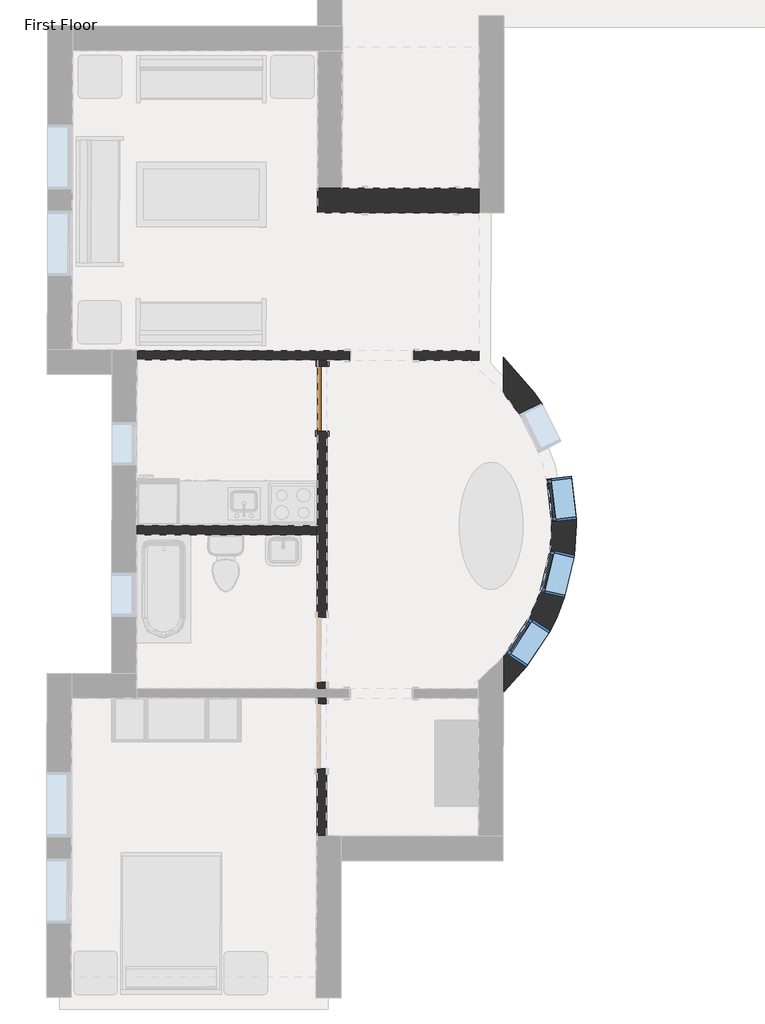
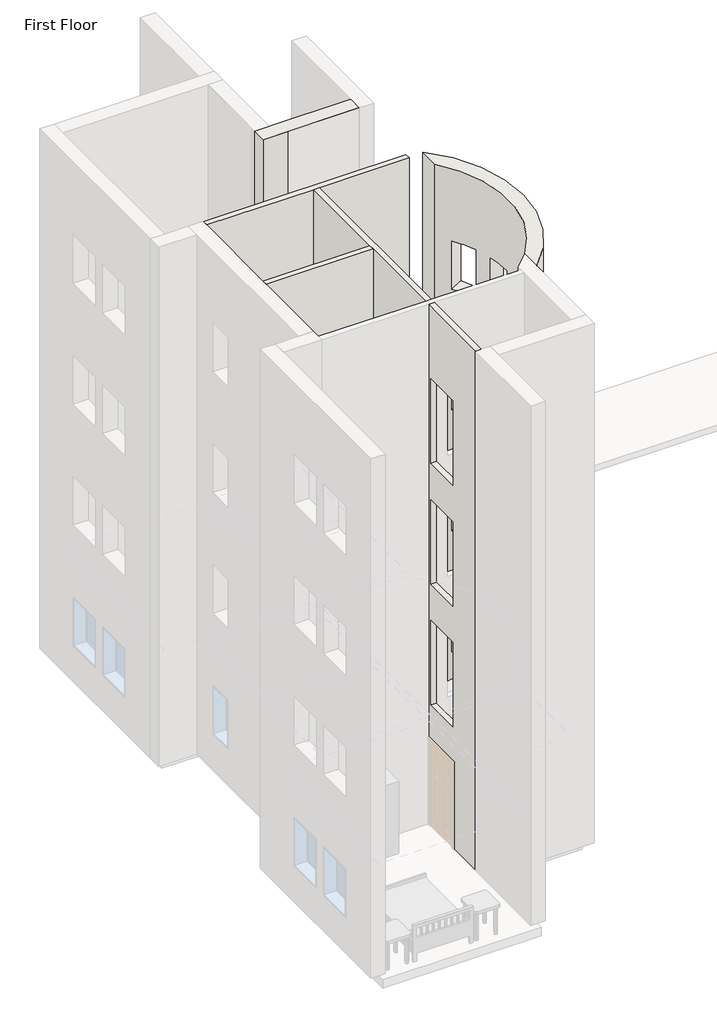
# One storey, part 10 of 23: 5 walls, 3 windows, 1 door.
"""IFC4 building model written with IfcOpenShell, lengths in millimetres."""

from ifc_helpers import new_model, si_unit, frame, origin, origin_with_axes, place, context, project, spatial, polyline, circle_curve, outline, extrude, faceted_brep, transform, mapped, element, save
from ifc_brep_helpers import plane_surface, cylinder_surface, revolved_surface, advanced_brep
from components import m_single_flush_0915_x_2134mm_08e0827a, m_fixed_0610_x_1220mm_2c28ef1d, m_fixed_0610_x_1220mm_1ea27827

model = new_model("IFC4")

# Units and contexts
model_context = context("Model", 3, world=origin())
ifc_project = project(units=[si_unit("LENGTHUNIT", "METRE", prefix="MILLI")], contexts=[model_context])

# Site, building, storey
site = spatial("IfcSite", under=ifc_project)
building = spatial("IfcBuilding", under=site)
storey = spatial("IfcBuildingStorey", under=building, Name="First Floor", Elevation=0.0)

# Door
placement = place(None, origin())
m_single_flush_0915_x_2134mm_shape = m_single_flush_0915_x_2134mm_08e0827a(model_context)
element("IfcDoor", 1, ObjectType="M_Single-Flush : 0915 x 2134mm", at=placement, inside=storey, context=model_context, shape_type="MappedRepresentation", body=[
    mapped(m_single_flush_0915_x_2134mm_shape, transform((-30110.3916422, -11034.8800064, 0.0), x_axis=(0.0014474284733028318, 0.9999989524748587, 0.0), y_axis=(-0.9999989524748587, 0.0014474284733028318, 0.0), z_axis=(0.0, 0.0, 1.0))),
])

# Walls
element("IfcWall", 2, ObjectType="Exterior - Brick on Mtl. Stud", at=placement, inside=storey, context=model_context, shape_type="Brep", body=[
    faceted_brep([(-27895.0916203, -8064.2811614, 0.0), (-29831.0916203, -8064.2811614, 0.0), (-30181.0916203, -8064.2811614, 0.0), (-30181.0916203, -8064.2811614, 13107.0), (-29831.0916203, -8064.2811614, 13107.0), (-27895.0916203, -8064.2811614, 13107.0), (-27895.0916203, -8414.2811614, 0.0), (-27895.0916203, -8414.2811614, 13107.0), (-27895.5961928, -8414.2811614, 13107.0), (-30181.0916203, -8414.2811614, 13107.0), (-30181.0916203, -8414.2811614, 0.0), (-27895.5961928, -8414.2811614, 0.0)], [[[0, 1, 2, 3, 4, 5]], [[6, 7, 8, 9, 10, 11]], [[2, 1, 0, 6, 11, 10]], [[5, 4, 3, 9, 8, 7]], [[0, 5, 7, 6]], [[3, 2, 10, 9]]]),
])
element("IfcWall", 3, ObjectType="Exterior - Brick on Mtl. Stud", at=placement, inside=storey, context=model_context, shape_type="AdvancedBrep", body=[
    advanced_brep(
    [(-27549.2751645, -10956.2613328, 13107.0), (-27554.6547514, -14672.9086878, 13107.0), (-27555.3862129, -15178.2606268, 13107.0), (-27548.543703, -10450.9093937, 13107.0), (-27554.6547514, -14672.9086878, 0.0), (-27549.2751645, -10956.2613328, 0.0), (-27548.543703, -10450.9093937, 0.0), (-27555.3862129, -15178.2606268, 0.0), (-27520.0158029, -14631.4021728, 2135.0), (-27520.0158029, -14631.4021728, 915.0), (-27185.8837278, -14121.0535112, 915.0), (-27185.8837278, -14121.0535112, 2135.0), (-27031.6069202, -13761.3294525, 2135.0), (-27031.6069202, -13761.3294525, 915.0), (-26892.1749972, -13167.4786809, 915.0), (-26892.1749972, -13167.4786809, 2135.0), (-26942.3208705, -12170.9571474, 915.0), (-26942.3208705, -12170.9571474, 2135.0), (-26870.2350936, -12776.6828616, 2135.0), (-26870.2350936, -12776.6828616, 915.0), (-27330.2730153, -11251.6841147, 915.0), (-27330.2730153, -11251.6841147, 2135.0), (-27055.3641472, -11796.2253108, 2135.0), (-27055.3641472, -11796.2253108, 915.0), (-26942.3208705, -12170.9571474, 10059.0), (-26942.3208705, -12170.9571474, 11279.0), (-26870.2350936, -12776.6828616, 11279.0), (-26870.2350936, -12776.6828616, 10059.0), (-27330.2730153, -11251.6841147, 10059.0), (-27330.2730153, -11251.6841147, 11279.0), (-27055.3641472, -11796.2253108, 11279.0), (-27055.3641472, -11796.2253108, 10059.0), (-27031.6069202, -13761.3294525, 10059.0), (-26892.1749972, -13167.4786809, 10059.0), (-26892.1749972, -13167.4786809, 11279.0), (-27031.6069202, -13761.3294525, 11279.0), (-27520.0158029, -14631.4021728, 10059.0), (-27185.8837278, -14121.0535112, 10059.0), (-27185.8837278, -14121.0535112, 11279.0), (-27520.0158029, -14631.4021728, 11279.0), (-26942.3208705, -12170.9571474, 3963.0), (-26942.3208705, -12170.9571474, 5183.0), (-26870.2350936, -12776.6828616, 5183.0), (-26870.2350936, -12776.6828616, 3963.0), (-27330.2730153, -11251.6841147, 3963.0), (-27330.2730153, -11251.6841147, 5183.0), (-27055.3641472, -11796.2253108, 5183.0), (-27055.3641472, -11796.2253108, 3963.0), (-27031.6069202, -13761.3294525, 3963.0), (-26892.1749972, -13167.4786809, 3963.0), (-26892.1749972, -13167.4786809, 5183.0), (-27031.6069202, -13761.3294525, 5183.0), (-27520.0158029, -14631.4021728, 3963.0), (-27185.8837278, -14121.0535112, 3963.0), (-27185.8837278, -14121.0535112, 5183.0), (-27520.0158029, -14631.4021728, 5183.0), (-26942.3208705, -12170.9571474, 7011.0), (-26942.3208705, -12170.9571474, 8231.0), (-26870.2350936, -12776.6828616, 8231.0), (-26870.2350936, -12776.6828616, 7011.0), (-27330.2730153, -11251.6841147, 7011.0), (-27330.2730153, -11251.6841147, 8231.0), (-27055.3641472, -11796.2253108, 8231.0), (-27055.3641472, -11796.2253108, 7011.0), (-27031.6069202, -13761.3294525, 7011.0), (-26892.1749972, -13167.4786809, 7011.0), (-26892.1749972, -13167.4786809, 8231.0), (-27031.6069202, -13761.3294525, 8231.0), (-27520.0158029, -14631.4021728, 7011.0), (-27185.8837278, -14121.0535112, 7011.0), (-27185.8837278, -14121.0535112, 8231.0), (-27520.0158029, -14631.4021728, 8231.0), (-27225.7106882, -14824.0876564, 915.0), (-27225.7106882, -14824.0876564, 2135.0), (-26891.5786131, -14313.7389949, 2135.0), (-26891.5786131, -14313.7389949, 915.0), (-26689.1482589, -13841.7363021, 915.0), (-26689.1482589, -13841.7363021, 2135.0), (-26549.7163359, -13247.8855306, 2135.0), (-26549.7163359, -13247.8855306, 915.0), (-26593.0142313, -12129.3871103, 915.0), (-26520.9284545, -12735.1128244, 915.0), (-26520.9284545, -12735.1128244, 2135.0), (-26593.0142313, -12129.3871103, 2135.0), (-27016.2499342, -11093.1511508, 915.0), (-26741.3410661, -11637.6923468, 915.0), (-26741.3410661, -11637.6923468, 2135.0), (-27016.2499342, -11093.1511508, 2135.0), (-26593.0142313, -12129.3871103, 10059.0), (-26520.9284545, -12735.1128244, 10059.0), (-26520.9284545, -12735.1128244, 11279.0), (-26593.0142313, -12129.3871103, 11279.0), (-27016.2499342, -11093.1511508, 10059.0), (-26741.3410661, -11637.6923468, 10059.0), (-26741.3410661, -11637.6923468, 11279.0), (-27016.2499342, -11093.1511508, 11279.0), (-26689.1482589, -13841.7363021, 10059.0), (-26689.1482589, -13841.7363021, 11279.0), (-26549.7163359, -13247.8855306, 11279.0), (-26549.7163359, -13247.8855306, 10059.0), (-27225.7106882, -14824.0876564, 10059.0), (-27225.7106882, -14824.0876564, 11279.0), (-26891.5786131, -14313.7389949, 11279.0), (-26891.5786131, -14313.7389949, 10059.0), (-26593.0142313, -12129.3871103, 3963.0), (-26520.9284545, -12735.1128244, 3963.0), (-26520.9284545, -12735.1128244, 5183.0), (-26593.0142313, -12129.3871103, 5183.0), (-27016.2499342, -11093.1511508, 3963.0), (-26741.3410661, -11637.6923468, 3963.0), (-26741.3410661, -11637.6923468, 5183.0), (-27016.2499342, -11093.1511508, 5183.0), (-26689.1482589, -13841.7363021, 3963.0), (-26689.1482589, -13841.7363021, 5183.0), (-26549.7163359, -13247.8855306, 5183.0), (-26549.7163359, -13247.8855306, 3963.0), (-27225.7106882, -14824.0876564, 3963.0), (-27225.7106882, -14824.0876564, 5183.0), (-26891.5786131, -14313.7389949, 5183.0), (-26891.5786131, -14313.7389949, 3963.0), (-26593.0142313, -12129.3871103, 7011.0), (-26520.9284545, -12735.1128244, 7011.0), (-26520.9284545, -12735.1128244, 8231.0), (-26593.0142313, -12129.3871103, 8231.0), (-27016.2499342, -11093.1511508, 7011.0), (-26741.3410661, -11637.6923468, 7011.0), (-26741.3410661, -11637.6923468, 8231.0), (-27016.2499342, -11093.1511508, 8231.0), (-26689.1482589, -13841.7363021, 7011.0), (-26689.1482589, -13841.7363021, 8231.0), (-26549.7163359, -13247.8855306, 8231.0), (-26549.7163359, -13247.8855306, 7011.0), (-27225.7106882, -14824.0876564, 7011.0), (-27225.7106882, -14824.0876564, 8231.0), (-26891.5786131, -14313.7389949, 8231.0), (-26891.5786131, -14313.7389949, 7011.0)],
    [
        (0, 1, circle_curve(frame((-29743.0251618, -12811.413604, 13107.0), z_axis=(0.0, 0.0, -1.0), x_axis=(0.0014474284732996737, 0.9999989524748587, 0.0)), 2873.0)),
        (1, 2),
        (2, 3, circle_curve(frame((-29743.0251618, -12811.413604, 13107.0), z_axis=(0.0, 0.0, 1.0), x_axis=(0.0014474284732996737, 0.9999989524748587, 0.0)), 3223.0)),
        (3, 0),
        (4, 5, circle_curve(frame((-29743.0251618, -12811.413604, 0.0), z_axis=(0.0, 0.0, 1.0), x_axis=(0.0014474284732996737, 0.9999989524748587, 0.0)), 2873.0)),
        (5, 6),
        (6, 7, circle_curve(frame((-29743.0251618, -12811.413604, 0.0), z_axis=(0.0, 0.0, -1.0), x_axis=(0.0014474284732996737, 0.9999989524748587, 0.0)), 3223.0)),
        (7, 4),
        (0, 5),
        (4, 1),
        (8, 9),
        (9, 10, circle_curve(frame((-29743.0251618, -12811.413604, 915.0), z_axis=(0.0, 0.0, 1.0), x_axis=(0.0014474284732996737, 0.9999989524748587, 0.0)), 2873.0)),
        (10, 11),
        (11, 8, circle_curve(frame((-29743.0251618, -12811.413604, 2135.0), z_axis=(0.0, 0.0, -1.0), x_axis=(0.0014474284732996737, 0.9999989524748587, 0.0)), 2873.0)),
        (12, 13),
        (13, 14, circle_curve(frame((-29743.0251618, -12811.413604, 915.0), z_axis=(0.0, 0.0, 1.0), x_axis=(0.0014474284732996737, 0.9999989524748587, 0.0)), 2873.0)),
        (14, 15),
        (15, 12, circle_curve(frame((-29743.0251618, -12811.413604, 2135.0), z_axis=(0.0, 0.0, -1.0), x_axis=(0.0014474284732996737, 0.9999989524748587, 0.0)), 2873.0)),
        (16, 17),
        (17, 18, circle_curve(frame((-29743.0251618, -12811.413604, 2135.0), z_axis=(0.0, 0.0, -1.0), x_axis=(0.0014474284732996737, 0.9999989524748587, 0.0)), 2873.0)),
        (18, 19),
        (19, 16, circle_curve(frame((-29743.0251618, -12811.413604, 915.0), z_axis=(0.0, 0.0, 1.0), x_axis=(0.0014474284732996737, 0.9999989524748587, 0.0)), 2873.0)),
        (20, 21),
        (21, 22, circle_curve(frame((-29743.0251618, -12811.413604, 2135.0), z_axis=(0.0, 0.0, -1.0), x_axis=(0.0014474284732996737, 0.9999989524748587, 0.0)), 2873.0)),
        (22, 23),
        (23, 20, circle_curve(frame((-29743.0251618, -12811.413604, 915.0), z_axis=(0.0, 0.0, 1.0), x_axis=(0.0014474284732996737, 0.9999989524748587, 0.0)), 2873.0)),
        (24, 25),
        (25, 26, circle_curve(frame((-29743.0251618, -12811.413604, 11279.0), z_axis=(0.0, 0.0, -1.0), x_axis=(0.0014474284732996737, 0.9999989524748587, 0.0)), 2873.0)),
        (26, 27),
        (27, 24, circle_curve(frame((-29743.0251618, -12811.413604, 10059.0), z_axis=(0.0, 0.0, 1.0), x_axis=(0.0014474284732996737, 0.9999989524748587, 0.0)), 2873.0)),
        (28, 29),
        (29, 30, circle_curve(frame((-29743.0251618, -12811.413604, 11279.0), z_axis=(0.0, 0.0, -1.0), x_axis=(0.0014474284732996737, 0.9999989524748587, 0.0)), 2873.0)),
        (30, 31),
        (31, 28, circle_curve(frame((-29743.0251618, -12811.413604, 10059.0), z_axis=(0.0, 0.0, 1.0), x_axis=(0.0014474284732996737, 0.9999989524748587, 0.0)), 2873.0)),
        (32, 33, circle_curve(frame((-29743.0251618, -12811.413604, 10059.0), z_axis=(0.0, 0.0, 1.0), x_axis=(0.0014474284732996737, 0.9999989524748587, 0.0)), 2873.0)),
        (33, 34),
        (34, 35, circle_curve(frame((-29743.0251618, -12811.413604, 11279.0), z_axis=(0.0, 0.0, -1.0), x_axis=(0.0014474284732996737, 0.9999989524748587, 0.0)), 2873.0)),
        (35, 32),
        (36, 37, circle_curve(frame((-29743.0251618, -12811.413604, 10059.0), z_axis=(0.0, 0.0, 1.0), x_axis=(0.0014474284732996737, 0.9999989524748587, 0.0)), 2873.0)),
        (37, 38),
        (38, 39, circle_curve(frame((-29743.0251618, -12811.413604, 11279.0), z_axis=(0.0, 0.0, -1.0), x_axis=(0.0014474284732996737, 0.9999989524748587, 0.0)), 2873.0)),
        (39, 36),
        (40, 41),
        (41, 42, circle_curve(frame((-29743.0251618, -12811.413604, 5183.0), z_axis=(0.0, 0.0, -1.0), x_axis=(0.0014474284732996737, 0.9999989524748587, 0.0)), 2873.0)),
        (42, 43),
        (43, 40, circle_curve(frame((-29743.0251618, -12811.413604, 3963.0), z_axis=(0.0, 0.0, 1.0), x_axis=(0.0014474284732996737, 0.9999989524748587, 0.0)), 2873.0)),
        (44, 45),
        (45, 46, circle_curve(frame((-29743.0251618, -12811.413604, 5183.0), z_axis=(0.0, 0.0, -1.0), x_axis=(0.0014474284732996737, 0.9999989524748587, 0.0)), 2873.0)),
        (46, 47),
        (47, 44, circle_curve(frame((-29743.0251618, -12811.413604, 3963.0), z_axis=(0.0, 0.0, 1.0), x_axis=(0.0014474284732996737, 0.9999989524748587, 0.0)), 2873.0)),
        (48, 49, circle_curve(frame((-29743.0251618, -12811.413604, 3963.0), z_axis=(0.0, 0.0, 1.0), x_axis=(0.0014474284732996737, 0.9999989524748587, 0.0)), 2873.0)),
        (49, 50),
        (50, 51, circle_curve(frame((-29743.0251618, -12811.413604, 5183.0), z_axis=(0.0, 0.0, -1.0), x_axis=(0.0014474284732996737, 0.9999989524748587, 0.0)), 2873.0)),
        (51, 48),
        (52, 53, circle_curve(frame((-29743.0251618, -12811.413604, 3963.0), z_axis=(0.0, 0.0, 1.0), x_axis=(0.0014474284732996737, 0.9999989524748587, 0.0)), 2873.0)),
        (53, 54),
        (54, 55, circle_curve(frame((-29743.0251618, -12811.413604, 5183.0), z_axis=(0.0, 0.0, -1.0), x_axis=(0.0014474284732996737, 0.9999989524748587, 0.0)), 2873.0)),
        (55, 52),
        (56, 57),
        (57, 58, circle_curve(frame((-29743.0251618, -12811.413604, 8231.0), z_axis=(0.0, 0.0, -1.0), x_axis=(0.0014474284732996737, 0.9999989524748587, 0.0)), 2873.0)),
        (58, 59),
        (59, 56, circle_curve(frame((-29743.0251618, -12811.413604, 7011.0), z_axis=(0.0, 0.0, 1.0), x_axis=(0.0014474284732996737, 0.9999989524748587, 0.0)), 2873.0)),
        (60, 61),
        (61, 62, circle_curve(frame((-29743.0251618, -12811.413604, 8231.0), z_axis=(0.0, 0.0, -1.0), x_axis=(0.0014474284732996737, 0.9999989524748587, 0.0)), 2873.0)),
        (62, 63),
        (63, 60, circle_curve(frame((-29743.0251618, -12811.413604, 7011.0), z_axis=(0.0, 0.0, 1.0), x_axis=(0.0014474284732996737, 0.9999989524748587, 0.0)), 2873.0)),
        (64, 65, circle_curve(frame((-29743.0251618, -12811.413604, 7011.0), z_axis=(0.0, 0.0, 1.0), x_axis=(0.0014474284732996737, 0.9999989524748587, 0.0)), 2873.0)),
        (65, 66),
        (66, 67, circle_curve(frame((-29743.0251618, -12811.413604, 8231.0), z_axis=(0.0, 0.0, -1.0), x_axis=(0.0014474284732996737, 0.9999989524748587, 0.0)), 2873.0)),
        (67, 64),
        (68, 69, circle_curve(frame((-29743.0251618, -12811.413604, 7011.0), z_axis=(0.0, 0.0, 1.0), x_axis=(0.0014474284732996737, 0.9999989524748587, 0.0)), 2873.0)),
        (69, 70),
        (70, 71, circle_curve(frame((-29743.0251618, -12811.413604, 8231.0), z_axis=(0.0, 0.0, -1.0), x_axis=(0.0014474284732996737, 0.9999989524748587, 0.0)), 2873.0)),
        (71, 68),
        (2, 7),
        (6, 3),
        (72, 73),
        (73, 74, circle_curve(frame((-29743.0251618, -12811.413604, 2135.0), z_axis=(0.0, 0.0, 1.0), x_axis=(0.0014474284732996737, 0.9999989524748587, 0.0)), 3223.0)),
        (74, 75),
        (75, 72, circle_curve(frame((-29743.0251618, -12811.413604, 915.0), z_axis=(0.0, 0.0, -1.0), x_axis=(0.0014474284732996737, 0.9999989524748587, 0.0)), 3223.0)),
        (76, 77),
        (77, 78, circle_curve(frame((-29743.0251618, -12811.413604, 2135.0), z_axis=(0.0, 0.0, 1.0), x_axis=(0.0014474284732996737, 0.9999989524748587, 0.0)), 3223.0)),
        (78, 79),
        (79, 76, circle_curve(frame((-29743.0251618, -12811.413604, 915.0), z_axis=(0.0, 0.0, -1.0), x_axis=(0.0014474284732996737, 0.9999989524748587, 0.0)), 3223.0)),
        (80, 81, circle_curve(frame((-29743.0251618, -12811.413604, 915.0), z_axis=(0.0, 0.0, -1.0), x_axis=(0.0014474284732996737, 0.9999989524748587, 0.0)), 3223.0)),
        (81, 82),
        (82, 83, circle_curve(frame((-29743.0251618, -12811.413604, 2135.0), z_axis=(0.0, 0.0, 1.0), x_axis=(0.0014474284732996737, 0.9999989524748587, 0.0)), 3223.0)),
        (83, 80),
        (84, 85, circle_curve(frame((-29743.0251618, -12811.413604, 915.0), z_axis=(0.0, 0.0, -1.0), x_axis=(0.0014474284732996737, 0.9999989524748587, 0.0)), 3223.0)),
        (85, 86),
        (86, 87, circle_curve(frame((-29743.0251618, -12811.413604, 2135.0), z_axis=(0.0, 0.0, 1.0), x_axis=(0.0014474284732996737, 0.9999989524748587, 0.0)), 3223.0)),
        (87, 84),
        (88, 89, circle_curve(frame((-29743.0251618, -12811.413604, 10059.0), z_axis=(0.0, 0.0, -1.0), x_axis=(0.0014474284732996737, 0.9999989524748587, 0.0)), 3223.0)),
        (89, 90),
        (90, 91, circle_curve(frame((-29743.0251618, -12811.413604, 11279.0), z_axis=(0.0, 0.0, 1.0), x_axis=(0.0014474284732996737, 0.9999989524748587, 0.0)), 3223.0)),
        (91, 88),
        (92, 93, circle_curve(frame((-29743.0251618, -12811.413604, 10059.0), z_axis=(0.0, 0.0, -1.0), x_axis=(0.0014474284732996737, 0.9999989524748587, 0.0)), 3223.0)),
        (93, 94),
        (94, 95, circle_curve(frame((-29743.0251618, -12811.413604, 11279.0), z_axis=(0.0, 0.0, 1.0), x_axis=(0.0014474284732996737, 0.9999989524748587, 0.0)), 3223.0)),
        (95, 92),
        (96, 97),
        (97, 98, circle_curve(frame((-29743.0251618, -12811.413604, 11279.0), z_axis=(0.0, 0.0, 1.0), x_axis=(0.0014474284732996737, 0.9999989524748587, 0.0)), 3223.0)),
        (98, 99),
        (99, 96, circle_curve(frame((-29743.0251618, -12811.413604, 10059.0), z_axis=(0.0, 0.0, -1.0), x_axis=(0.0014474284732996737, 0.9999989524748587, 0.0)), 3223.0)),
        (100, 101),
        (101, 102, circle_curve(frame((-29743.0251618, -12811.413604, 11279.0), z_axis=(0.0, 0.0, 1.0), x_axis=(0.0014474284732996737, 0.9999989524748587, 0.0)), 3223.0)),
        (102, 103),
        (103, 100, circle_curve(frame((-29743.0251618, -12811.413604, 10059.0), z_axis=(0.0, 0.0, -1.0), x_axis=(0.0014474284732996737, 0.9999989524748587, 0.0)), 3223.0)),
        (104, 105, circle_curve(frame((-29743.0251618, -12811.413604, 3963.0), z_axis=(0.0, 0.0, -1.0), x_axis=(0.0014474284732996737, 0.9999989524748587, 0.0)), 3223.0)),
        (105, 106),
        (106, 107, circle_curve(frame((-29743.0251618, -12811.413604, 5183.0), z_axis=(0.0, 0.0, 1.0), x_axis=(0.0014474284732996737, 0.9999989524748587, 0.0)), 3223.0)),
        (107, 104),
        (108, 109, circle_curve(frame((-29743.0251618, -12811.413604, 3963.0), z_axis=(0.0, 0.0, -1.0), x_axis=(0.0014474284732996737, 0.9999989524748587, 0.0)), 3223.0)),
        (109, 110),
        (110, 111, circle_curve(frame((-29743.0251618, -12811.413604, 5183.0), z_axis=(0.0, 0.0, 1.0), x_axis=(0.0014474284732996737, 0.9999989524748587, 0.0)), 3223.0)),
        (111, 108),
        (112, 113),
        (113, 114, circle_curve(frame((-29743.0251618, -12811.413604, 5183.0), z_axis=(0.0, 0.0, 1.0), x_axis=(0.0014474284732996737, 0.9999989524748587, 0.0)), 3223.0)),
        (114, 115),
        (115, 112, circle_curve(frame((-29743.0251618, -12811.413604, 3963.0), z_axis=(0.0, 0.0, -1.0), x_axis=(0.0014474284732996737, 0.9999989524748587, 0.0)), 3223.0)),
        (116, 117),
        (117, 118, circle_curve(frame((-29743.0251618, -12811.413604, 5183.0), z_axis=(0.0, 0.0, 1.0), x_axis=(0.0014474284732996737, 0.9999989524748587, 0.0)), 3223.0)),
        (118, 119),
        (119, 116, circle_curve(frame((-29743.0251618, -12811.413604, 3963.0), z_axis=(0.0, 0.0, -1.0), x_axis=(0.0014474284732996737, 0.9999989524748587, 0.0)), 3223.0)),
        (120, 121, circle_curve(frame((-29743.0251618, -12811.413604, 7011.0), z_axis=(0.0, 0.0, -1.0), x_axis=(0.0014474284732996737, 0.9999989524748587, 0.0)), 3223.0)),
        (121, 122),
        (122, 123, circle_curve(frame((-29743.0251618, -12811.413604, 8231.0), z_axis=(0.0, 0.0, 1.0), x_axis=(0.0014474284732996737, 0.9999989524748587, 0.0)), 3223.0)),
        (123, 120),
        (124, 125, circle_curve(frame((-29743.0251618, -12811.413604, 7011.0), z_axis=(0.0, 0.0, -1.0), x_axis=(0.0014474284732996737, 0.9999989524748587, 0.0)), 3223.0)),
        (125, 126),
        (126, 127, circle_curve(frame((-29743.0251618, -12811.413604, 8231.0), z_axis=(0.0, 0.0, 1.0), x_axis=(0.0014474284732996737, 0.9999989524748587, 0.0)), 3223.0)),
        (127, 124),
        (128, 129),
        (129, 130, circle_curve(frame((-29743.0251618, -12811.413604, 8231.0), z_axis=(0.0, 0.0, 1.0), x_axis=(0.0014474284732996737, 0.9999989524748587, 0.0)), 3223.0)),
        (130, 131),
        (131, 128, circle_curve(frame((-29743.0251618, -12811.413604, 7011.0), z_axis=(0.0, 0.0, -1.0), x_axis=(0.0014474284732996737, 0.9999989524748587, 0.0)), 3223.0)),
        (132, 133),
        (133, 134, circle_curve(frame((-29743.0251618, -12811.413604, 8231.0), z_axis=(0.0, 0.0, 1.0), x_axis=(0.0014474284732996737, 0.9999989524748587, 0.0)), 3223.0)),
        (134, 135),
        (135, 132, circle_curve(frame((-29743.0251618, -12811.413604, 7011.0), z_axis=(0.0, 0.0, -1.0), x_axis=(0.0014474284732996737, 0.9999989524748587, 0.0)), 3223.0)),
        (72, 9),
        (8, 73),
        (11, 74),
        (10, 75),
        (76, 13),
        (12, 77),
        (15, 78),
        (14, 79),
        (16, 80),
        (83, 17),
        (82, 18),
        (81, 19),
        (20, 84),
        (87, 21),
        (86, 22),
        (85, 23),
        (24, 88),
        (91, 25),
        (90, 26),
        (89, 27),
        (28, 92),
        (95, 29),
        (94, 30),
        (93, 31),
        (96, 32),
        (35, 97),
        (34, 98),
        (33, 99),
        (100, 36),
        (39, 101),
        (38, 102),
        (37, 103),
        (40, 104),
        (107, 41),
        (106, 42),
        (105, 43),
        (44, 108),
        (111, 45),
        (110, 46),
        (109, 47),
        (112, 48),
        (51, 113),
        (50, 114),
        (49, 115),
        (116, 52),
        (55, 117),
        (54, 118),
        (53, 119),
        (56, 120),
        (123, 57),
        (122, 58),
        (121, 59),
        (60, 124),
        (127, 61),
        (126, 62),
        (125, 63),
        (128, 64),
        (67, 129),
        (66, 130),
        (65, 131),
        (132, 68),
        (71, 133),
        (70, 134),
        (69, 135),
    ],
    [
        plane_surface(frame((-29738.8666998, -9938.4166136, 13107.0), z_axis=(0.0, 0.0, 1.0), x_axis=(0.9999989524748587, -0.001447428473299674, 0.0))),
        plane_surface(frame((-29738.8666998, -9938.4166136, 0.0), z_axis=(0.0, 0.0, -1.0), x_axis=(-0.9999989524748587, 0.001447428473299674, 0.0))),
        revolved_surface(polyline([(-29738.86669979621, -9938.41661353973, 0.0), (-29738.86669979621, -9938.41661353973, 13107.0)]), (-29743.0251618, -12811.413604, 0.0), (0.0, 0.0, -1.0)),
        cylinder_surface(frame((-29743.0251618, -12811.413604, 0.0), z_axis=(0.0, 0.0, 1.0), x_axis=(0.0014474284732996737, 0.9999989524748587, 0.0)), 3223.0),
        plane_surface(frame((-27545.347315, -8242.5897996, 0.0), z_axis=(-0.9999989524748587, 0.0014474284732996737, 0.0), x_axis=(0.0014474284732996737, 0.9999989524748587, 0.0))),
        plane_surface(frame((-27558.5826009, -17386.580221, 0.0), z_axis=(-0.9999989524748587, 0.0014474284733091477, 0.0), x_axis=(0.0014474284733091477, 0.9999989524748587, 0.0))),
        plane_surface(frame((-27225.7106882, -14824.0876564, 915.0), z_axis=(0.5477575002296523, 0.8366371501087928, 0.0), x_axis=(-0.8366371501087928, 0.5477575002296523, 0.0))),
        plane_surface(frame((-27225.7106882, -14824.0876564, 2135.0), z_axis=(0.0, 0.0, -1.0), x_axis=(-0.8366371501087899, 0.5477575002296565, 0.0))),
        plane_surface(frame((-26891.5786131, -14313.7389949, 2135.0), z_axis=(-0.5477575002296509, -0.8366371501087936, 0.0), x_axis=(-0.8366371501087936, 0.5477575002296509, 0.0))),
        plane_surface(frame((-26891.5786131, -14313.7389949, 915.0), z_axis=(0.0, 0.0, 1.0), x_axis=(-0.8366371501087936, 0.5477575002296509, 0.0))),
        plane_surface(frame((-28174.5262739, -13492.9801449, 915.0), z_axis=(0.22857692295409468, 0.9735258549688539, 0.0), x_axis=(0.9735258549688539, -0.22857692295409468, 0.0))),
        plane_surface(frame((-28174.5262739, -13492.9801449, 2135.0), z_axis=(0.0, 0.0, -1.0000000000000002), x_axis=(0.9735258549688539, -0.22857692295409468, 0.0))),
        plane_surface(frame((-28035.0943509, -12899.1293734, 2135.0), z_axis=(-0.22857692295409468, -0.9735258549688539, 0.0), x_axis=(0.9735258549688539, -0.22857692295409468, 0.0))),
        plane_surface(frame((-28035.0943509, -12899.1293734, 915.0), z_axis=(0.0, 0.0, 1.0000000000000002), x_axis=(0.9735258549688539, -0.22857692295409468, 0.0))),
        plane_surface(frame((-26942.3208705, -12170.9571474, 915.0), z_axis=(0.11817340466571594, -0.9929929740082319, 0.0), x_axis=(0.9929929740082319, 0.11817340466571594, 0.0))),
        plane_surface(frame((-26942.3208705, -12170.9571474, 2135.0), z_axis=(0.0, 0.0, -1.0000000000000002), x_axis=(0.9929929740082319, 0.11817340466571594, 0.0))),
        plane_surface(frame((-26870.2350936, -12776.6828616, 2135.0), z_axis=(-0.11817340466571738, 0.9929929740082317, 0.0), x_axis=(0.9929929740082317, 0.11817340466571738, 0.0))),
        plane_surface(frame((-26870.2350936, -12776.6828616, 915.0), z_axis=(0.0, 0.0, 1.0000000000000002), x_axis=(0.9929929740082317, 0.11817340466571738, 0.0))),
        plane_surface(frame((-27330.2730153, -11251.6841147, 915.0), z_axis=(0.450670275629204, -0.8926904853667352, 0.0), x_axis=(0.8926904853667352, 0.450670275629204, 0.0))),
        plane_surface(frame((-27330.2730153, -11251.6841147, 2135.0), z_axis=(0.0, 0.0, -1.0000000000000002), x_axis=(0.8926904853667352, 0.450670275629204, 0.0))),
        plane_surface(frame((-27055.3641472, -11796.2253108, 2135.0), z_axis=(-0.45067027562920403, 0.8926904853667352, 0.0), x_axis=(0.8926904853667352, 0.45067027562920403, 0.0))),
        plane_surface(frame((-27055.3641472, -11796.2253108, 915.0), z_axis=(0.0, 0.0, 1.0), x_axis=(0.8926904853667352, 0.45067027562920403, 0.0))),
        plane_surface(frame((-26942.3208705, -12170.9571474, 10059.0), z_axis=(0.11817340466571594, -0.9929929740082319, 0.0), x_axis=(0.9929929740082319, 0.11817340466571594, 0.0))),
        plane_surface(frame((-26942.3208705, -12170.9571474, 11279.0), z_axis=(0.0, 0.0, -1.0000000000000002), x_axis=(0.9929929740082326, 0.11817340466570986, 0.0))),
        plane_surface(frame((-26870.2350936, -12776.6828616, 11279.0), z_axis=(-0.1181734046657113, 0.9929929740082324, 0.0), x_axis=(0.9929929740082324, 0.1181734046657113, 0.0))),
        plane_surface(frame((-26870.2350936, -12776.6828616, 10059.0), z_axis=(0.0, 0.0, 1.0), x_axis=(0.9929929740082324, 0.1181734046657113, 0.0))),
        plane_surface(frame((-27330.2730153, -11251.6841147, 10059.0), z_axis=(0.45067027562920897, -0.8926904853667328, 0.0), x_axis=(0.8926904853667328, 0.45067027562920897, 0.0))),
        plane_surface(frame((-27330.2730153, -11251.6841147, 11279.0), z_axis=(0.0, 0.0, -1.0000000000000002), x_axis=(0.8926904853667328, 0.45067027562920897, 0.0))),
        plane_surface(frame((-27055.3641472, -11796.2253108, 11279.0), z_axis=(-0.45067027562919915, 0.8926904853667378, 0.0), x_axis=(0.8926904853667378, 0.45067027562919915, 0.0))),
        plane_surface(frame((-27055.3641472, -11796.2253108, 10059.0), z_axis=(0.0, 0.0, 1.0000000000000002), x_axis=(0.8926904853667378, 0.45067027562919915, 0.0))),
        plane_surface(frame((-26689.1482589, -13841.7363021, 10059.0), z_axis=(0.22857692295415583, 0.9735258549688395, 0.0), x_axis=(-0.9735258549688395, 0.22857692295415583, 0.0))),
        plane_surface(frame((-26689.1482589, -13841.7363021, 11279.0), z_axis=(0.0, 0.0, -1.0), x_axis=(-0.9735258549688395, 0.22857692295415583, 0.0))),
        plane_surface(frame((-26549.7163359, -13247.8855306, 11279.0), z_axis=(-0.22857692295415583, -0.9735258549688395, 0.0), x_axis=(-0.9735258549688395, 0.22857692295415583, 0.0))),
        plane_surface(frame((-26549.7163359, -13247.8855306, 10059.0), z_axis=(0.0, 0.0, 1.0), x_axis=(-0.9735258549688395, 0.22857692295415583, 0.0))),
        plane_surface(frame((-27225.7106882, -14824.0876564, 10059.0), z_axis=(0.5477575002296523, 0.8366371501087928, 0.0), x_axis=(-0.8366371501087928, 0.5477575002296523, 0.0))),
        plane_surface(frame((-27225.7106882, -14824.0876564, 11279.0), z_axis=(0.0, 0.0, -1.0000000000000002), x_axis=(-0.8366371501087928, 0.5477575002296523, 0.0))),
        plane_surface(frame((-26891.5786131, -14313.7389949, 11279.0), z_axis=(-0.5477575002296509, -0.8366371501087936, 0.0), x_axis=(-0.8366371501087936, 0.5477575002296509, 0.0))),
        plane_surface(frame((-26891.5786131, -14313.7389949, 10059.0), z_axis=(0.0, 0.0, 1.0), x_axis=(-0.8366371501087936, 0.5477575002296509, 0.0))),
        plane_surface(frame((-26942.3208705, -12170.9571474, 3963.0), z_axis=(0.11817340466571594, -0.9929929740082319, 0.0), x_axis=(0.9929929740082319, 0.11817340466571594, 0.0))),
        plane_surface(frame((-26942.3208705, -12170.9571474, 5183.0), z_axis=(0.0, 0.0, -1.0000000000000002), x_axis=(0.9929929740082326, 0.11817340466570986, 0.0))),
        plane_surface(frame((-26870.2350936, -12776.6828616, 5183.0), z_axis=(-0.1181734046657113, 0.9929929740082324, 0.0), x_axis=(0.9929929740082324, 0.1181734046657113, 0.0))),
        plane_surface(frame((-26870.2350936, -12776.6828616, 3963.0), z_axis=(0.0, 0.0, 1.0), x_axis=(0.9929929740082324, 0.1181734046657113, 0.0))),
        plane_surface(frame((-27330.2730153, -11251.6841147, 3963.0), z_axis=(0.45067027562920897, -0.8926904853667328, 0.0), x_axis=(0.8926904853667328, 0.45067027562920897, 0.0))),
        plane_surface(frame((-27330.2730153, -11251.6841147, 5183.0), z_axis=(0.0, 0.0, -1.0000000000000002), x_axis=(0.8926904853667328, 0.45067027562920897, 0.0))),
        plane_surface(frame((-27055.3641472, -11796.2253108, 5183.0), z_axis=(-0.45067027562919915, 0.8926904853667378, 0.0), x_axis=(0.8926904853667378, 0.45067027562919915, 0.0))),
        plane_surface(frame((-27055.3641472, -11796.2253108, 3963.0), z_axis=(0.0, 0.0, 1.0000000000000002), x_axis=(0.8926904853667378, 0.45067027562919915, 0.0))),
        plane_surface(frame((-26689.1482589, -13841.7363021, 3963.0), z_axis=(0.22857692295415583, 0.9735258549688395, 0.0), x_axis=(-0.9735258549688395, 0.22857692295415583, 0.0))),
        plane_surface(frame((-26689.1482589, -13841.7363021, 5183.0), z_axis=(0.0, 0.0, -1.0), x_axis=(-0.9735258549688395, 0.22857692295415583, 0.0))),
        plane_surface(frame((-26549.7163359, -13247.8855306, 5183.0), z_axis=(-0.22857692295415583, -0.9735258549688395, 0.0), x_axis=(-0.9735258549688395, 0.22857692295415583, 0.0))),
        plane_surface(frame((-26549.7163359, -13247.8855306, 3963.0), z_axis=(0.0, 0.0, 1.0), x_axis=(-0.9735258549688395, 0.22857692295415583, 0.0))),
        plane_surface(frame((-27225.7106882, -14824.0876564, 3963.0), z_axis=(0.5477575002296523, 0.8366371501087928, 0.0), x_axis=(-0.8366371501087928, 0.5477575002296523, 0.0))),
        plane_surface(frame((-27225.7106882, -14824.0876564, 5183.0), z_axis=(0.0, 0.0, -1.0000000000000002), x_axis=(-0.8366371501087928, 0.5477575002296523, 0.0))),
        plane_surface(frame((-26891.5786131, -14313.7389949, 5183.0), z_axis=(-0.5477575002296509, -0.8366371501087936, 0.0), x_axis=(-0.8366371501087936, 0.5477575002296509, 0.0))),
        plane_surface(frame((-26891.5786131, -14313.7389949, 3963.0), z_axis=(0.0, 0.0, 1.0), x_axis=(-0.8366371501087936, 0.5477575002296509, 0.0))),
        plane_surface(frame((-26942.3208705, -12170.9571474, 7011.0), z_axis=(0.11817340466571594, -0.9929929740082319, 0.0), x_axis=(0.9929929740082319, 0.11817340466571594, 0.0))),
        plane_surface(frame((-26942.3208705, -12170.9571474, 8231.0), z_axis=(0.0, 0.0, -1.0000000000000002), x_axis=(0.9929929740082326, 0.11817340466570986, 0.0))),
        plane_surface(frame((-26870.2350936, -12776.6828616, 8231.0), z_axis=(-0.1181734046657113, 0.9929929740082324, 0.0), x_axis=(0.9929929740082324, 0.1181734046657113, 0.0))),
        plane_surface(frame((-26870.2350936, -12776.6828616, 7011.0), z_axis=(0.0, 0.0, 1.0), x_axis=(0.9929929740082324, 0.1181734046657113, 0.0))),
        plane_surface(frame((-27330.2730153, -11251.6841147, 7011.0), z_axis=(0.45067027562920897, -0.8926904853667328, 0.0), x_axis=(0.8926904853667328, 0.45067027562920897, 0.0))),
        plane_surface(frame((-27330.2730153, -11251.6841147, 8231.0), z_axis=(0.0, 0.0, -1.0000000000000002), x_axis=(0.8926904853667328, 0.45067027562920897, 0.0))),
        plane_surface(frame((-27055.3641472, -11796.2253108, 8231.0), z_axis=(-0.45067027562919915, 0.8926904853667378, 0.0), x_axis=(0.8926904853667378, 0.45067027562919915, 0.0))),
        plane_surface(frame((-27055.3641472, -11796.2253108, 7011.0), z_axis=(0.0, 0.0, 1.0000000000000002), x_axis=(0.8926904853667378, 0.45067027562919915, 0.0))),
        plane_surface(frame((-26689.1482589, -13841.7363021, 7011.0), z_axis=(0.22857692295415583, 0.9735258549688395, 0.0), x_axis=(-0.9735258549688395, 0.22857692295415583, 0.0))),
        plane_surface(frame((-26689.1482589, -13841.7363021, 8231.0), z_axis=(0.0, 0.0, -1.0), x_axis=(-0.9735258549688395, 0.22857692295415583, 0.0))),
        plane_surface(frame((-26549.7163359, -13247.8855306, 8231.0), z_axis=(-0.22857692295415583, -0.9735258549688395, 0.0), x_axis=(-0.9735258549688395, 0.22857692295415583, 0.0))),
        plane_surface(frame((-26549.7163359, -13247.8855306, 7011.0), z_axis=(0.0, 0.0, 1.0), x_axis=(-0.9735258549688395, 0.22857692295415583, 0.0))),
        plane_surface(frame((-27225.7106882, -14824.0876564, 7011.0), z_axis=(0.5477575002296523, 0.8366371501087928, 0.0), x_axis=(-0.8366371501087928, 0.5477575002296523, 0.0))),
        plane_surface(frame((-27225.7106882, -14824.0876564, 8231.0), z_axis=(0.0, 0.0, -1.0000000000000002), x_axis=(-0.8366371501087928, 0.5477575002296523, 0.0))),
        plane_surface(frame((-26891.5786131, -14313.7389949, 8231.0), z_axis=(-0.5477575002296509, -0.8366371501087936, 0.0), x_axis=(-0.8366371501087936, 0.5477575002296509, 0.0))),
        plane_surface(frame((-26891.5786131, -14313.7389949, 7011.0), z_axis=(0.0, 0.0, 1.0), x_axis=(-0.8366371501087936, 0.5477575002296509, 0.0))),
    ],
    [
        (0, [[1, 2, 3, 4]]),
        (1, [[5, 6, 7, 8]]),
        (2, [[-1, 9, -5, 10], [11, 12, 13, 14], [15, 16, 17, 18], [19, 20, 21, 22], [23, 24, 25, 26], [27, 28, 29, 30], [31, 32, 33, 34], [35, 36, 37, 38], [39, 40, 41, 42], [43, 44, 45, 46], [47, 48, 49, 50], [51, 52, 53, 54], [55, 56, 57, 58], [59, 60, 61, 62], [63, 64, 65, 66], [67, 68, 69, 70], [71, 72, 73, 74]]),
        (3, [[-3, 75, -7, 76], [77, 78, 79, 80], [81, 82, 83, 84], [85, 86, 87, 88], [89, 90, 91, 92], [93, 94, 95, 96], [97, 98, 99, 100], [101, 102, 103, 104], [105, 106, 107, 108], [109, 110, 111, 112], [113, 114, 115, 116], [117, 118, 119, 120], [121, 122, 123, 124], [125, 126, 127, 128], [129, 130, 131, 132], [133, 134, 135, 136], [137, 138, 139, 140]]),
        (4, [[-4, -76, -6, -9]]),
        (5, [[-2, -10, -8, -75]]),
        (6, [[-77, 141, -11, 142]]),
        (7, [[-78, -142, -14, 143]]),
        (8, [[-79, -143, -13, 144]]),
        (9, [[-80, -144, -12, -141]]),
        (10, [[145, -15, 146, -81]]),
        (11, [[-146, -18, 147, -82]]),
        (12, [[-147, -17, 148, -83]]),
        (13, [[-145, -84, -148, -16]]),
        (14, [[-19, 149, -88, 150]]),
        (15, [[-20, -150, -87, 151]]),
        (16, [[-21, -151, -86, 152]]),
        (17, [[-22, -152, -85, -149]]),
        (18, [[-23, 153, -92, 154]]),
        (19, [[-24, -154, -91, 155]]),
        (20, [[-25, -155, -90, 156]]),
        (21, [[-26, -156, -89, -153]]),
        (22, [[-27, 157, -96, 158]]),
        (23, [[-28, -158, -95, 159]]),
        (24, [[-29, -159, -94, 160]]),
        (25, [[-30, -160, -93, -157]]),
        (26, [[-31, 161, -100, 162]]),
        (27, [[-32, -162, -99, 163]]),
        (28, [[-33, -163, -98, 164]]),
        (29, [[-34, -164, -97, -161]]),
        (30, [[-101, 165, -38, 166]]),
        (31, [[-102, -166, -37, 167]]),
        (32, [[-103, -167, -36, 168]]),
        (33, [[-104, -168, -35, -165]]),
        (34, [[-105, 169, -42, 170]]),
        (35, [[-106, -170, -41, 171]]),
        (36, [[-107, -171, -40, 172]]),
        (37, [[-108, -172, -39, -169]]),
        (38, [[-43, 173, -112, 174]]),
        (39, [[-44, -174, -111, 175]]),
        (40, [[-45, -175, -110, 176]]),
        (41, [[-46, -176, -109, -173]]),
        (42, [[-47, 177, -116, 178]]),
        (43, [[-48, -178, -115, 179]]),
        (44, [[-49, -179, -114, 180]]),
        (45, [[-50, -180, -113, -177]]),
        (46, [[-117, 181, -54, 182]]),
        (47, [[-118, -182, -53, 183]]),
        (48, [[-119, -183, -52, 184]]),
        (49, [[-120, -184, -51, -181]]),
        (50, [[-121, 185, -58, 186]]),
        (51, [[-122, -186, -57, 187]]),
        (52, [[-123, -187, -56, 188]]),
        (53, [[-124, -188, -55, -185]]),
        (54, [[-59, 189, -128, 190]]),
        (55, [[-60, -190, -127, 191]]),
        (56, [[-61, -191, -126, 192]]),
        (57, [[-62, -192, -125, -189]]),
        (58, [[-63, 193, -132, 194]]),
        (59, [[-64, -194, -131, 195]]),
        (60, [[-65, -195, -130, 196]]),
        (61, [[-66, -196, -129, -193]]),
        (62, [[-133, 197, -70, 198]]),
        (63, [[-134, -198, -69, 199]]),
        (64, [[-135, -199, -68, 200]]),
        (65, [[-136, -200, -67, -197]]),
        (66, [[-137, 201, -74, 202]]),
        (67, [[-138, -202, -73, 203]]),
        (68, [[-139, -203, -72, 204]]),
        (69, [[-140, -204, -71, -201]]),
    ],
),
])
element("IfcWall", 4, ObjectType="Interior - 135mm Partition (2-hr)", at=placement, inside=storey, context=model_context, shape_type="Brep", body=[
    faceted_brep([(-28813.9081314, -10494.5060075, 2134.0), (-28813.9081314, -10494.5060075, 0.0), (-27898.6090902, -10495.8308387, 0.0), (-27898.6090902, -10495.8308387, 13107.0), (-30041.8568451, -10492.7286377, 13107.0), (-30177.3567032, -10492.5325111, 13107.0), (-32730.204029, -10488.8374433, 13107.0), (-32730.204029, -10488.8374433, 0.0), (-30177.3567032, -10492.5325111, 0.0), (-30041.8568451, -10492.7286377, 0.0), (-29728.907173, -10493.1816104, 0.0), (-29728.907173, -10493.1816104, 2134.0), (-29728.907173, -10493.1816104, 11278.0), (-28813.9081314, -10494.5060075, 11278.0), (-28813.9081314, -10494.5060075, 9144.0), (-29728.907173, -10493.1816104, 9144.0), (-29728.907173, -10493.1816104, 5182.0), (-28813.9081314, -10494.5060075, 5182.0), (-28813.9081314, -10494.5060075, 3048.0), (-29728.907173, -10493.1816104, 3048.0), (-29728.907173, -10493.1816104, 8230.0), (-28813.9081314, -10494.5060075, 8230.0), (-28813.9081314, -10494.5060075, 6096.0), (-29728.907173, -10493.1816104, 6096.0), (-27898.4129637, -10360.3309807, 0.0), (-28813.7120049, -10359.0061494, 0.0), (-28813.7120049, -10359.0061494, 2134.0), (-29728.7110464, -10357.6817523, 2134.0), (-29728.7110464, -10357.6817523, 0.0), (-32730.0079025, -10353.3375853, 0.0), (-32730.0079025, -10353.3375853, 13107.0), (-27898.4129637, -10360.3309807, 13107.0), (-29728.7110464, -10357.6817523, 11278.0), (-29728.7110464, -10357.6817523, 9144.0), (-28813.7120049, -10359.0061494, 9144.0), (-28813.7120049, -10359.0061494, 11278.0), (-29728.7110464, -10357.6817523, 5182.0), (-29728.7110464, -10357.6817523, 3048.0), (-28813.7120049, -10359.0061494, 3048.0), (-28813.7120049, -10359.0061494, 5182.0), (-29728.7110464, -10357.6817523, 8230.0), (-29728.7110464, -10357.6817523, 6096.0), (-28813.7120049, -10359.0061494, 6096.0), (-28813.7120049, -10359.0061494, 8230.0)], [[[0, 1, 2, 3, 4, 5, 6, 7, 8, 9, 10, 11], [12, 13, 14, 15], [16, 17, 18, 19], [20, 21, 22, 23]], [[24, 25, 26, 27, 28, 29, 30, 31], [32, 33, 34, 35], [36, 37, 38, 39], [40, 41, 42, 43]], [[2, 1, 25, 24]], [[10, 9, 8, 7, 29, 28]], [[6, 5, 4, 3, 31, 30]], [[7, 6, 30, 29]], [[3, 2, 24, 31]], [[28, 27, 11, 10]], [[26, 25, 1, 0]], [[27, 26, 0, 11]], [[33, 32, 12, 15]], [[34, 33, 15, 14]], [[35, 34, 14, 13]], [[32, 35, 13, 12]], [[37, 36, 16, 19]], [[38, 37, 19, 18]], [[39, 38, 18, 17]], [[36, 39, 17, 16]], [[41, 40, 20, 23]], [[42, 41, 23, 22]], [[43, 42, 22, 21]], [[40, 43, 21, 20]]]),
])
element("IfcWall", 5, ObjectType="Interior - 135mm Partition (2-hr)", at=placement, inside=storey, context=model_context, shape_type="Brep", body=[
    faceted_brep([(-30051.5766892, -17207.9716033, 13107.0), (-30051.5766892, -17207.9716033, 0.0), (-30050.2056126, -16260.7225955, 0.0), (-30050.2056126, -16260.7225955, 2134.0), (-30048.8812155, -15345.723554, 2134.0), (-30048.8812155, -15345.723554, 0.0), (-30048.7639738, -15264.7236389, 0.0), (-30048.7639738, -15264.7236389, 13107.0), (-30048.8812155, -15345.723554, 9144.0), (-30050.2056126, -16260.7225955, 9144.0), (-30050.2056126, -16260.7225955, 11278.0), (-30048.8812155, -15345.723554, 11278.0), (-30048.8812155, -15345.723554, 3048.0), (-30050.2056126, -16260.7225955, 3048.0), (-30050.2056126, -16260.7225955, 5182.0), (-30048.8812155, -15345.723554, 5182.0), (-30048.8812155, -15345.723554, 6096.0), (-30050.2056126, -16260.7225955, 6096.0), (-30050.2056126, -16260.7225955, 8230.0), (-30048.8812155, -15345.723554, 8230.0), (-30187.0765472, -17207.7754767, 0.0), (-30187.0765472, -17207.7754767, 13107.0), (-30184.2638319, -15264.5275123, 13107.0), (-30184.2638319, -15264.5275123, 0.0), (-30184.3810736, -15345.5274275, 0.0), (-30184.3810736, -15345.5274275, 2134.0), (-30185.7054706, -16260.526469, 2134.0), (-30185.7054706, -16260.526469, 0.0), (-30185.7054706, -16260.526469, 9144.0), (-30184.3810736, -15345.5274275, 9144.0), (-30184.3810736, -15345.5274275, 11278.0), (-30185.7054706, -16260.526469, 11278.0), (-30185.7054706, -16260.526469, 3048.0), (-30184.3810736, -15345.5274275, 3048.0), (-30184.3810736, -15345.5274275, 5182.0), (-30185.7054706, -16260.526469, 5182.0), (-30185.7054706, -16260.526469, 6096.0), (-30184.3810736, -15345.5274275, 6096.0), (-30184.3810736, -15345.5274275, 8230.0), (-30185.7054706, -16260.526469, 8230.0)], [[[0, 1, 2, 3, 4, 5, 6, 7], [8, 9, 10, 11], [12, 13, 14, 15], [16, 17, 18, 19]], [[20, 21, 22, 23, 24, 25, 26, 27], [28, 29, 30, 31], [32, 33, 34, 35], [36, 37, 38, 39]], [[1, 20, 27, 2]], [[5, 24, 23, 6]], [[21, 0, 7, 22]], [[1, 0, 21, 20]], [[7, 6, 23, 22]], [[4, 25, 24, 5]], [[25, 4, 3, 26]], [[26, 3, 2, 27]], [[29, 28, 9, 8]], [[30, 29, 8, 11]], [[31, 30, 11, 10]], [[28, 31, 10, 9]], [[33, 32, 13, 12]], [[34, 33, 12, 15]], [[35, 34, 15, 14]], [[32, 35, 14, 13]], [[37, 36, 17, 16]], [[38, 37, 16, 19]], [[39, 38, 19, 18]], [[36, 39, 18, 17]]]),
    faceted_brep([(-30041.8568451, -10492.7286377, 0.0), (-30041.8568451, -10492.7286377, 13107.0), (-30048.5678472, -15129.2237808, 13107.0), (-30048.5678472, -15129.2237808, 0.0), (-30048.4397498, -15040.7238735, 0.0), (-30048.4397498, -15040.7238735, 2134.0), (-30047.1153528, -14125.724832, 2134.0), (-30047.1153528, -14125.724832, 0.0), (-30043.3039117, -11492.4775904, 0.0), (-30043.3039117, -11492.4775904, 2134.0), (-30041.9795147, -10577.4785489, 2134.0), (-30041.9795147, -10577.4785489, 0.0), (-30041.9795147, -10577.4785489, 9144.0), (-30043.3039117, -11492.4775904, 9144.0), (-30043.3039117, -11492.4775904, 11278.0), (-30041.9795147, -10577.4785489, 11278.0), (-30047.1153528, -14125.724832, 9144.0), (-30048.4397498, -15040.7238735, 9144.0), (-30048.4397498, -15040.7238735, 11278.0), (-30047.1153528, -14125.724832, 11278.0), (-30041.9795147, -10577.4785489, 3048.0), (-30043.3039117, -11492.4775904, 3048.0), (-30043.3039117, -11492.4775904, 5182.0), (-30041.9795147, -10577.4785489, 5182.0), (-30047.1153528, -14125.724832, 3048.0), (-30048.4397498, -15040.7238735, 3048.0), (-30048.4397498, -15040.7238735, 5182.0), (-30047.1153528, -14125.724832, 5182.0), (-30041.9795147, -10577.4785489, 6096.0), (-30043.3039117, -11492.4775904, 6096.0), (-30043.3039117, -11492.4775904, 8230.0), (-30041.9795147, -10577.4785489, 8230.0), (-30047.1153528, -14125.724832, 6096.0), (-30048.4397498, -15040.7238735, 6096.0), (-30048.4397498, -15040.7238735, 8230.0), (-30047.1153528, -14125.724832, 8230.0), (-30177.3567032, -10492.5325111, 13107.0), (-30177.3567032, -10492.5325111, 0.0), (-30177.4793728, -10577.2824223, 0.0), (-30177.4793728, -10577.2824223, 2134.0), (-30178.8037698, -11492.2814638, 2134.0), (-30178.8037698, -11492.2814638, 0.0), (-30180.7366658, -12827.680065, 0.0), (-30180.9327923, -12963.179923, 0.0), (-30182.6152108, -14125.5287054, 0.0), (-30182.6152108, -14125.5287054, 2134.0), (-30183.9396079, -15040.527747, 2134.0), (-30183.9396079, -15040.527747, 0.0), (-30184.0677053, -15129.0276542, 0.0), (-30184.0677053, -15129.0276542, 13107.0), (-30180.9327923, -12963.179923, 13107.0), (-30180.7366658, -12827.680065, 13107.0), (-30178.8037698, -11492.2814638, 9144.0), (-30177.4793728, -10577.2824223, 9144.0), (-30177.4793728, -10577.2824223, 11278.0), (-30178.8037698, -11492.2814638, 11278.0), (-30183.9396079, -15040.527747, 9144.0), (-30182.6152108, -14125.5287054, 9144.0), (-30182.6152108, -14125.5287054, 11278.0), (-30183.9396079, -15040.527747, 11278.0), (-30178.8037698, -11492.2814638, 3048.0), (-30177.4793728, -10577.2824223, 3048.0), (-30177.4793728, -10577.2824223, 5182.0), (-30178.8037698, -11492.2814638, 5182.0), (-30183.9396079, -15040.527747, 3048.0), (-30182.6152108, -14125.5287054, 3048.0), (-30182.6152108, -14125.5287054, 5182.0), (-30183.9396079, -15040.527747, 5182.0), (-30178.8037698, -11492.2814638, 6096.0), (-30177.4793728, -10577.2824223, 6096.0), (-30177.4793728, -10577.2824223, 8230.0), (-30178.8037698, -11492.2814638, 8230.0), (-30183.9396079, -15040.527747, 6096.0), (-30182.6152108, -14125.5287054, 6096.0), (-30182.6152108, -14125.5287054, 8230.0), (-30183.9396079, -15040.527747, 8230.0)], [[[0, 1, 2, 3, 4, 5, 6, 7, 8, 9, 10, 11], [12, 13, 14, 15], [16, 17, 18, 19], [20, 21, 22, 23], [24, 25, 26, 27], [28, 29, 30, 31], [32, 33, 34, 35]], [[36, 37, 38, 39, 40, 41, 42, 43, 44, 45, 46, 47, 48, 49, 50, 51], [52, 53, 54, 55], [56, 57, 58, 59], [60, 61, 62, 63], [64, 65, 66, 67], [68, 69, 70, 71], [72, 73, 74, 75]], [[37, 0, 11, 38]], [[47, 4, 3, 48]], [[7, 44, 43, 42, 41, 8]], [[1, 36, 51, 50, 49, 2]], [[1, 0, 37, 36]], [[3, 2, 49, 48]], [[5, 4, 47, 46]], [[6, 5, 46, 45]], [[7, 6, 45, 44]], [[39, 38, 11, 10]], [[40, 39, 10, 9]], [[41, 40, 9, 8]], [[53, 52, 13, 12]], [[54, 53, 12, 15]], [[55, 54, 15, 14]], [[52, 55, 14, 13]], [[17, 16, 57, 56]], [[18, 17, 56, 59]], [[19, 18, 59, 58]], [[16, 19, 58, 57]], [[61, 60, 21, 20]], [[62, 61, 20, 23]], [[63, 62, 23, 22]], [[60, 63, 22, 21]], [[25, 24, 65, 64]], [[26, 25, 64, 67]], [[27, 26, 67, 66]], [[24, 27, 66, 65]], [[69, 68, 29, 28]], [[70, 69, 28, 31]], [[71, 70, 31, 30]], [[68, 71, 30, 29]], [[33, 32, 73, 72]], [[34, 33, 72, 75]], [[35, 34, 75, 74]], [[32, 35, 74, 73]]]),
])
element("IfcWall", 6, ObjectType="Interior - 135mm Partition (2-hr)", at=placement, inside=storey, context=model_context, shape_type="SweptSolid", body=[
    extrude(outline(polyline([(-30180.9327923, -12963.179923), (-32733.7801182, -12959.4848553), (-32733.5839916, -12823.9849972), (-30180.7366658, -12827.680065), (-30180.9327923, -12963.179923)])), origin_with_axes(), (0.0, 0.0, 1.0), 13107.0),
])

# Windows
m_fixed_0610_x_1220mm_shape = m_fixed_0610_x_1220mm_2c28ef1d(model_context)
element("IfcWindow", 7, ObjectType="M_Fixed : 0610 x 1220mm", at=placement, inside=storey, context=model_context, shape_type="MappedRepresentation", body=[
    mapped(m_fixed_0610_x_1220mm_shape, transform((-27195.6619811, -14479.206252, 0.0), x_axis=(0.5477575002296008, 0.8366371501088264, 0.0), y_axis=(-0.8366371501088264, 0.5477575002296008, 0.0), z_axis=(0.0, 0.0, 1.0))),
])
element("IfcWindow", 8, ObjectType="M_Fixed : 0610 x 1220mm", at=placement, inside=storey, context=model_context, shape_type="MappedRepresentation", body=[
    mapped(m_fixed_0610_x_1220mm_shape, transform((-26778.8680979, -13507.3765282, 0.0), x_axis=(0.2285769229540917, 0.9735258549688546, 0.0), y_axis=(-0.9735258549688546, 0.2285769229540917, 0.0), z_axis=(0.0, 0.0, 1.0))),
])
m_fixed_0610_x_1220mm_2_shape = m_fixed_0610_x_1220mm_1ea27827(model_context)
element("IfcWindow", 9, ObjectType="M_Fixed : 0610 x 1220mm", at=placement, inside=storey, context=model_context, shape_type="MappedRepresentation", body=[
    mapped(m_fixed_0610_x_1220mm_2_shape, transform((-26719.595303, -12451.6034044, 0.0), x_axis=(0.11817340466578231, -0.992992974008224, 0.0), y_axis=(0.992992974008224, 0.11817340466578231, 0.0), z_axis=(0.0, 0.0, 1.0))),
])

save(model, "model.ifc")
